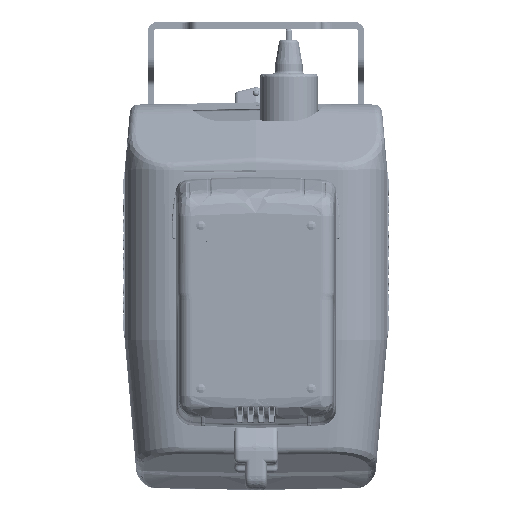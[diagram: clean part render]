
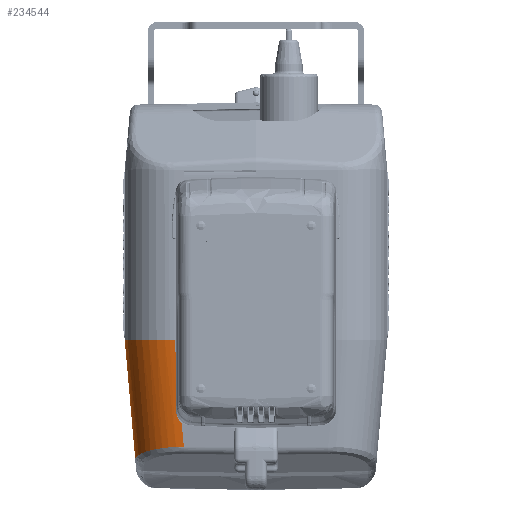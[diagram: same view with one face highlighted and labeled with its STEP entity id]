
A CAD part, front view. The second image highlights one B-rep face of the part: STEP entity #234544.
In plain terms, the highlighted cylindrical face has radius 24 mm (diameter 48 mm), a partial arc.
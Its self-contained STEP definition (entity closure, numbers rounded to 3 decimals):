
#3042 = CYLINDRICAL_SURFACE ( 'NONE', #323338, 24. ) ;
#4534 = CARTESIAN_POINT ( 'NONE',  ( -58.843, -91.257, -80.318 ) ) ;
#7927 = CARTESIAN_POINT ( 'NONE',  ( -61.994, -80.984, -80.005 ) ) ;
#9621 = CARTESIAN_POINT ( 'NONE',  ( -61.837, -82.527, -80.066 ) ) ;
#28109 = CARTESIAN_POINT ( 'NONE',  ( -43.848, -102.622, -80.168 ) ) ;
#30372 = CARTESIAN_POINT ( 'NONE',  ( -59.568, -89.889, -80.29 ) ) ;
#33753 = CARTESIAN_POINT ( 'NONE',  ( -62., -79.426, -79.936 ) ) ;
#40002 = EDGE_CURVE ( 'NONE', #127428, #241530, #270597, .T. ) ;
#50552 = CARTESIAN_POINT ( 'NONE',  ( -46.067, -101.95, -80.234 ) ) ;
#53029 = CARTESIAN_POINT ( 'NONE',  ( -32.329, -73.765, -143.703 ) ) ;
#53169 = B_SPLINE_CURVE_WITH_KNOTS ( 'NONE', 3,
 ( #33753, #7927, #9621, #114649, #219718, #168034, #30372, #4534, #260658, #53935, #265721, #315752, #102243, #339949, #262371, #207336, #55618, #158975, #50552, #79754, #28109, #109027, #233137, #183139 ),
 .UNSPECIFIED., .F., .F.,
 ( 4, 2, 2, 2, 2, 2, 2, 2, 2, 2, 2, 4 ),
 ( 0., 0.005, 0.009, 0.012, 0.014, 0.019, 0.021, 0.023, 0.028, 0.03, 0.033, 0.037 ),
 .UNSPECIFIED. ) ;
#53935 = CARTESIAN_POINT ( 'NONE',  ( -57.161, -93.868, -80.359 ) ) ;
#55618 = CARTESIAN_POINT ( 'NONE',  ( -48.932, -100.755, -80.304 ) ) ;
#60517 = DIRECTION ( 'NONE',  ( 0.087, 0.085, -0.993 ) ) ;
#62356 = EDGE_CURVE ( 'NONE', #83419, #241530, #150196, .T. ) ;
#65572 = CARTESIAN_POINT ( 'NONE',  ( -55.788, -73.323, -150.941 ) ) ;
#79754 = CARTESIAN_POINT ( 'NONE',  ( -44.593, -102.423, -80.191 ) ) ;
#83419 = VERTEX_POINT ( 'NONE', #157542 ) ;
#83932 = DIRECTION ( 'NONE',  ( 0.996, 0., 0.087 ) ) ;
#102243 = CARTESIAN_POINT ( 'NONE',  ( -54.002, -97.237, -80.37 ) ) ;
#102880 = ORIENTED_EDGE ( 'NONE', *, *, #194932, .T. ) ;
#108118 = DIRECTION ( 'NONE',  ( 0.087, 0.085, -0.993 ) ) ;
#109027 = CARTESIAN_POINT ( 'NONE',  ( -41.595, -103.112, -80.093 ) ) ;
#114649 = CARTESIAN_POINT ( 'NONE',  ( -61.224, -85.583, -80.174 ) ) ;
#123246 = VECTOR ( 'NONE', #193714, 1000. ) ;
#127428 = VERTEX_POINT ( 'NONE', #306670 ) ;
#150196 =( BOUNDED_CURVE ( )  B_SPLINE_CURVE ( 3, ( #202439, #307477, #150687, #204140 ),
 .UNSPECIFIED., .F., .F. ) 
 B_SPLINE_CURVE_WITH_KNOTS ( ( 4, 4 ),
 ( 2.914, 4.46 ),
 .UNSPECIFIED. ) 
 CURVE ( )  GEOMETRIC_REPRESENTATION_ITEM ( )  RATIONAL_B_SPLINE_CURVE ( ( 1., 0.811, 0.811, 1. ) ) 
 REPRESENTATION_ITEM ( '' )  );
#150687 = CARTESIAN_POINT ( 'NONE',  ( -57.338, -88.678, -133.22 ) ) ;
#157542 = CARTESIAN_POINT ( 'NONE',  ( -34.079, -98.977, -130.584 ) ) ;
#158975 = CARTESIAN_POINT ( 'NONE',  ( -46.8, -101.675, -80.253 ) ) ;
#168034 = CARTESIAN_POINT ( 'NONE',  ( -59.895, -89.192, -80.274 ) ) ;
#169586 = LINE ( 'NONE', #172953, #123246 ) ;
#172953 = CARTESIAN_POINT ( 'NONE',  ( -32.748, -97.67, -145.795 ) ) ;
#179479 = VECTOR ( 'NONE', #60517, 1000. ) ;
#180249 = VERTEX_POINT ( 'NONE', #235760 ) ;
#183139 = CARTESIAN_POINT ( 'NONE',  ( -38.507, -103.328, -79.972 ) ) ;
#185727 = EDGE_CURVE ( 'NONE', #127428, #180249, #53169, .T. ) ;
#193714 = DIRECTION ( 'NONE',  ( -0.087, -0.085, 0.993 ) ) ;
#194932 = EDGE_CURVE ( 'NONE', #83419, #180249, #169586, .T. ) ;
#202439 = CARTESIAN_POINT ( 'NONE',  ( -34.079, -98.977, -130.584 ) ) ;
#204140 = CARTESIAN_POINT ( 'NONE',  ( -57.018, -74.531, -136.884 ) ) ;
#207336 = CARTESIAN_POINT ( 'NONE',  ( -50.279, -100.012, -80.33 ) ) ;
#219718 = CARTESIAN_POINT ( 'NONE',  ( -60.774, -87.059, -80.219 ) ) ;
#233137 = CARTESIAN_POINT ( 'NONE',  ( -40.065, -103.295, -80.037 ) ) ;
#233368 = ORIENTED_EDGE ( 'NONE', *, *, #185727, .F. ) ;
#234544 = ADVANCED_FACE ( 'NONE', ( #238994 ), #3042, .T. ) ;
#235760 = CARTESIAN_POINT ( 'NONE',  ( -38.507, -103.328, -79.972 ) ) ;
#238994 = FACE_OUTER_BOUND ( 'NONE', #278426, .T. ) ;
#239815 = ORIENTED_EDGE ( 'NONE', *, *, #40002, .T. ) ;
#241530 = VERTEX_POINT ( 'NONE', #338112 ) ;
#260658 = CARTESIAN_POINT ( 'NONE',  ( -58.443, -91.93, -80.33 ) ) ;
#262371 = CARTESIAN_POINT ( 'NONE',  ( -52.188, -98.706, -80.355 ) ) ;
#265721 = CARTESIAN_POINT ( 'NONE',  ( -56.192, -95.063, -80.37 ) ) ;
#270597 = LINE ( 'NONE', #65572, #179479 ) ;
#278426 = EDGE_LOOP ( 'NONE', ( #102880, #233368, #239815, #321684 ) ) ;
#306670 = CARTESIAN_POINT ( 'NONE',  ( -62., -79.426, -79.936 ) ) ;
#307477 = CARTESIAN_POINT ( 'NONE',  ( -47.905, -98.731, -130.629 ) ) ;
#315752 = CARTESIAN_POINT ( 'NONE',  ( -54.57, -96.712, -80.371 ) ) ;
#321684 = ORIENTED_EDGE ( 'NONE', *, *, #62356, .F. ) ;
#323338 = AXIS2_PLACEMENT_3D ( 'NONE', #53029, #108118, #83932 ) ;
#338112 = CARTESIAN_POINT ( 'NONE',  ( -57.018, -74.531, -136.884 ) ) ;
#339949 = CARTESIAN_POINT ( 'NONE',  ( -52.806, -98.238, -80.362 ) ) ;
